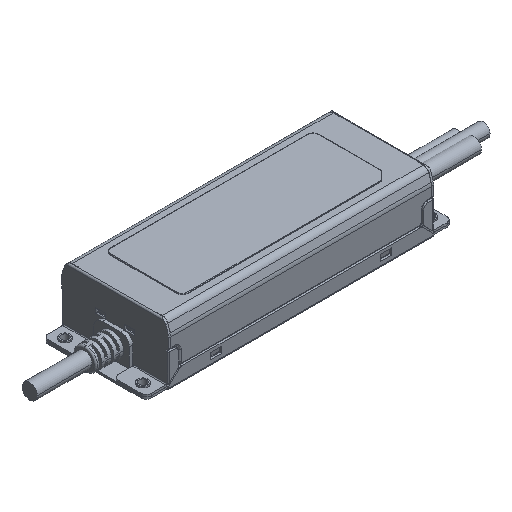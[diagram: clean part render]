
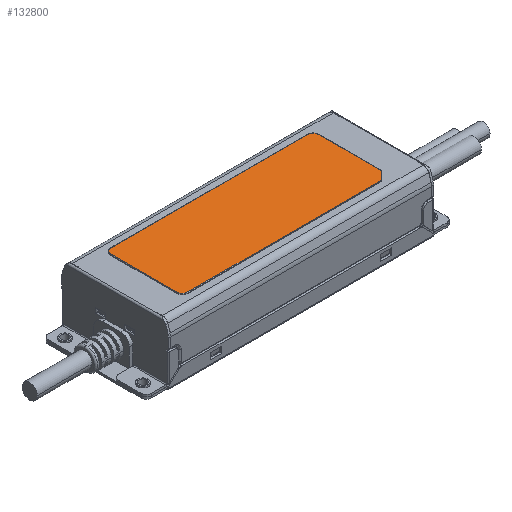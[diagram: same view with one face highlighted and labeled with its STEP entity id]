
A CAD part, isometric view. The second image highlights one B-rep face of the part: STEP entity #132800.
In plain terms, the highlighted planar face has unit normal (0, 0, 1).
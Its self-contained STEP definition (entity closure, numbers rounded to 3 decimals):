
#132060=CARTESIAN_POINT('',(149.066,46.025,34.3));
#132070=DIRECTION('',(0.,0.,1.));
#132080=DIRECTION('',(1.,0.,0.));
#132090=AXIS2_PLACEMENT_3D('',#132060,#132070,#132080);
#132100=PLANE('',#132090);
#132110=CARTESIAN_POINT('',(162.724,0.,34.3));
#132120=DIRECTION('',(-0.707,-0.707,0.));
#132130=VECTOR('',#132120,1.);
#132140=LINE('',#132110,#132130);
#132150=CARTESIAN_POINT('',(182.355,19.631,34.3));
#132160=VERTEX_POINT('',#132150);
#132170=CARTESIAN_POINT('',(177.472,14.748,34.3));
#132180=VERTEX_POINT('',#132170);
#132190=EDGE_CURVE('',#132160,#132180,#132140,.T.);
#132200=ORIENTED_EDGE('',*,*,#132190,.F.);
#132210=CARTESIAN_POINT('',(0.,14.748,34.3));
#132220=DIRECTION('',(1.,0.,0.));
#132230=VECTOR('',#132220,1.);
#132240=LINE('',#132210,#132230);
#132250=CARTESIAN_POINT('',(63.555,14.748,34.3));
#132260=VERTEX_POINT('',#132250);
#132270=EDGE_CURVE('',#132260,#132180,#132240,.T.);
#132280=ORIENTED_EDGE('',*,*,#132270,.T.);
#132290=CARTESIAN_POINT('',(63.555,18.048,34.3));
#132300=DIRECTION('',(0.,0.,-1.));
#132310=DIRECTION('',(-1.,0.,0.));
#132320=AXIS2_PLACEMENT_3D('',#132290,#132300,#132310);
#132330=CIRCLE('',#132320,3.3);
#132340=CARTESIAN_POINT('',(60.255,18.048,34.3));
#132350=VERTEX_POINT('',#132340);
#132360=EDGE_CURVE('',#132260,#132350,#132330,.T.);
#132370=ORIENTED_EDGE('',*,*,#132360,.F.);
#132380=CARTESIAN_POINT('',(60.255,0.,34.3));
#132390=DIRECTION('',(0.,-1.,0.));
#132400=VECTOR('',#132390,1.);
#132410=LINE('',#132380,#132400);
#132420=CARTESIAN_POINT('',(60.255,56.548,34.3));
#132430=VERTEX_POINT('',#132420);
#132440=EDGE_CURVE('',#132430,#132350,#132410,.T.);
#132450=ORIENTED_EDGE('',*,*,#132440,.T.);
#132460=CARTESIAN_POINT('',(63.555,56.548,34.3));
#132470=DIRECTION('',(0.,0.,1.));
#132480=DIRECTION('',(1.,0.,0.));
#132490=AXIS2_PLACEMENT_3D('',#132460,#132470,#132480);
#132500=CIRCLE('',#132490,3.3);
#132510=CARTESIAN_POINT('',(63.555,59.848,34.3));
#132520=VERTEX_POINT('',#132510);
#132530=EDGE_CURVE('',#132520,#132430,#132500,.T.);
#132540=ORIENTED_EDGE('',*,*,#132530,.T.);
#132550=CARTESIAN_POINT('',(0.,59.848,34.3));
#132560=DIRECTION('',(-1.,0.,0.));
#132570=VECTOR('',#132560,1.);
#132580=LINE('',#132550,#132570);
#132590=CARTESIAN_POINT('',(179.055,59.848,34.3));
#132600=VERTEX_POINT('',#132590);
#132610=EDGE_CURVE('',#132600,#132520,#132580,.T.);
#132620=ORIENTED_EDGE('',*,*,#132610,.T.);
#132630=CARTESIAN_POINT('',(179.055,56.548,34.3));
#132640=DIRECTION('',(0.,0.,-1.));
#132650=DIRECTION('',(-1.,0.,0.));
#132660=AXIS2_PLACEMENT_3D('',#132630,#132640,#132650);
#132670=CIRCLE('',#132660,3.3);
#132680=CARTESIAN_POINT('',(182.355,56.548,34.3));
#132690=VERTEX_POINT('',#132680);
#132700=EDGE_CURVE('',#132600,#132690,#132670,.T.);
#132710=ORIENTED_EDGE('',*,*,#132700,.F.);
#132720=CARTESIAN_POINT('',(182.355,0.,34.3));
#132730=DIRECTION('',(0.,1.,0.));
#132740=VECTOR('',#132730,1.);
#132750=LINE('',#132720,#132740);
#132760=EDGE_CURVE('',#132160,#132690,#132750,.T.);
#132770=ORIENTED_EDGE('',*,*,#132760,.T.);
#132780=EDGE_LOOP('',(#132770,#132710,#132620,#132540,#132450,#132370,
#132280,#132200));
#132790=FACE_OUTER_BOUND('',#132780,.T.);
#132800=ADVANCED_FACE('',(#132790),#132100,.T.);
